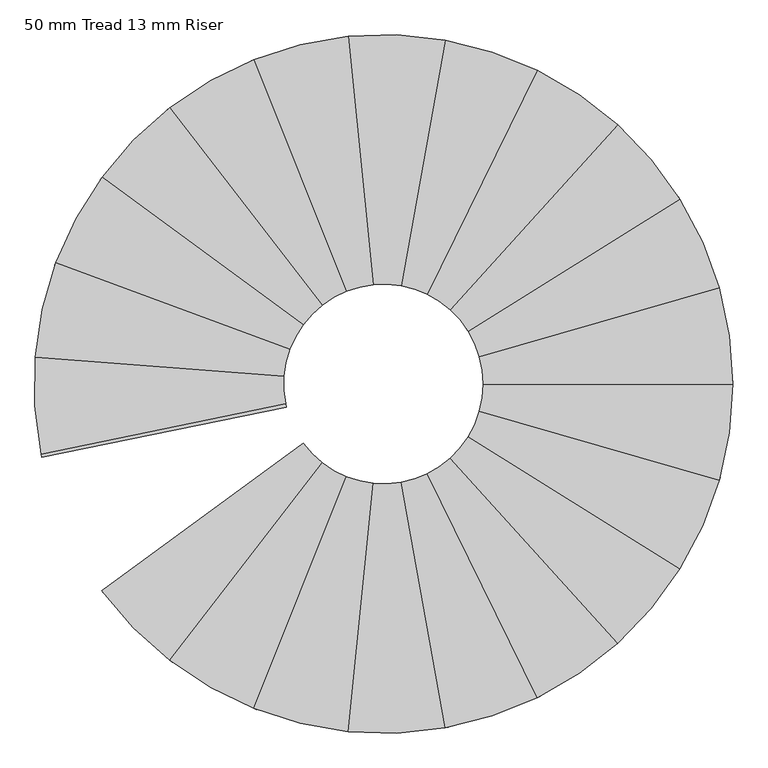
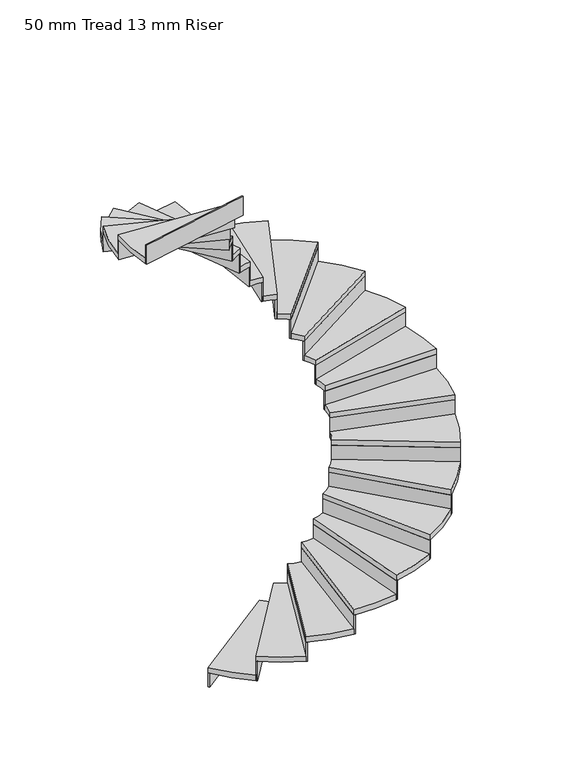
"""IFC4 building model written with IfcOpenShell, lengths in millimetres: stair flight geometry, 50 mm Tread 13 mm Riser."""

from ifc_helpers import new_model, si_unit, point, frame, frame_2d, origin, origin_with_axes, place, context, project, spatial, polyline, circle_curve, trimmed, segment, composite_curve, outline, extrude, source, transform, mapped, element, save


def stair_flight_50_mm_tread_13_mm_riser_f81ebb1b(model_context):
    return source(origin(), model_context, "Body", "SweptSolid", [
        extrude(outline(composite_curve([segment(trimmed(circle_curve(frame_2d((41081.7428342, 31893.725727)), 1400.0), [point((39960.6978939, 31055.1207891))], [point((39953.2550352, 31065.1635461))], False, "CARTESIAN"), True, "CONTINUOUS"), segment(polyline([(39953.2550352, 31065.1635461), (40759.3177488, 31656.9936753)]), True, "CONTINUOUS"), segment(trimmed(circle_curve(frame_2d((41081.7428342, 31893.725727)), 400.0), [point((40759.3177488, 31656.9936753))], [point((40766.873098, 31647.0335115))], True, "CARTESIAN"), True, "CONTINUOUS"), segment(polyline([(40766.873098, 31647.0335115), (39960.6978939, 31055.1207891)]), True, "CONTINUOUS")], self_intersect=False)), origin_with_axes(), (0.0, 0.0, 1.0), 131.8181818),
        extrude(outline(composite_curve([segment(polyline([(40836.8785542, 31577.4323752), (40224.7178542, 30786.6989958)]), True, "CONTINUOUS"), segment(trimmed(circle_curve(frame_2d((41081.7428342, 31893.725727)), 1400.0), [point((40224.7178542, 30786.6989958))], [point((39953.2550352, 31065.1635461))], False, "CARTESIAN"), True, "CONTINUOUS"), segment(polyline([(39953.2550352, 31065.1635461), (40759.3177488, 31656.9936753)]), True, "CONTINUOUS"), segment(trimmed(circle_curve(frame_2d((41081.7428342, 31893.725727)), 400.0), [point((40759.3177488, 31656.9936753))], [point((40836.8785542, 31577.4323752))], True, "CARTESIAN"), True, "CONTINUOUS")], self_intersect=False)), frame((0.0, 0.0, 131.8181818), z_axis=(0.0, 0.0, 1.0), x_axis=(1.0, 0.0, 0.0)), (0.0, 0.0, 1.0), 50.0),
        extrude(outline(composite_curve([segment(trimmed(circle_curve(frame_2d((41081.7428342, 31893.725727)), 1400.0), [point((40234.6361829, 30779.0911136))], [point((40224.7178542, 30786.6989958))], False, "CARTESIAN"), True, "CONTINUOUS"), segment(polyline([(40224.7178542, 30786.6989958), (40836.8785542, 31577.4323752)]), True, "CONTINUOUS"), segment(trimmed(circle_curve(frame_2d((41081.7428342, 31893.725727)), 400.0), [point((40836.8785542, 31577.4323752))], [point((40846.8823133, 31569.9348443))], True, "CARTESIAN"), True, "CONTINUOUS"), segment(polyline([(40846.8823133, 31569.9348443), (40234.6361829, 30779.0911136)]), True, "CONTINUOUS")], self_intersect=False)), frame((0.0, 0.0, 131.8181818), z_axis=(0.0, 0.0, 1.0), x_axis=(1.0, 0.0, 0.0)), (0.0, 0.0, 1.0), 181.8181818),
        extrude(outline(composite_curve([segment(polyline([(40933.3332084, 31522.2764263), (40562.3091439, 30593.6531747)]), True, "CONTINUOUS"), segment(trimmed(circle_curve(frame_2d((41081.7428342, 31893.725727)), 1400.0), [point((40562.3091439, 30593.6531747))], [point((40224.7178542, 30786.6989958))], False, "CARTESIAN"), True, "CONTINUOUS"), segment(polyline([(40224.7178542, 30786.6989958), (40836.8785542, 31577.4323752)]), True, "CONTINUOUS"), segment(trimmed(circle_curve(frame_2d((41081.7428342, 31893.725727)), 400.0), [point((40836.8785542, 31577.4323752))], [point((40933.3332084, 31522.2764263))], True, "CARTESIAN"), True, "CONTINUOUS")], self_intersect=False)), frame((0.0, 0.0, 313.6363636), z_axis=(0.0, 0.0, 1.0), x_axis=(1.0, 0.0, 0.0)), (0.0, 0.0, 1.0), 50.0),
        extrude(outline(composite_curve([segment(trimmed(circle_curve(frame_2d((41081.7428342, 31893.725727)), 1400.0), [point((40573.9376394, 30589.0671954))], [point((40562.3091439, 30593.6531747))], False, "CARTESIAN"), True, "CONTINUOUS"), segment(polyline([(40562.3091439, 30593.6531747), (40933.3332084, 31522.2764263)]), True, "CONTINUOUS"), segment(trimmed(circle_curve(frame_2d((41081.7428342, 31893.725727)), 400.0), [point((40933.3332084, 31522.2764263))], [point((40945.0134824, 31517.8200416))], True, "CARTESIAN"), True, "CONTINUOUS"), segment(polyline([(40945.0134824, 31517.8200416), (40573.9376394, 30589.0671954)]), True, "CONTINUOUS")], self_intersect=False)), frame((0.0, 0.0, 313.6363636), z_axis=(0.0, 0.0, 1.0), x_axis=(1.0, 0.0, 0.0)), (0.0, 0.0, 1.0), 181.8181818),
        extrude(outline(composite_curve([segment(polyline([(41041.2392226, 31495.7816889), (40939.9801936, 30500.9215937)]), True, "CONTINUOUS"), segment(trimmed(circle_curve(frame_2d((41081.7428342, 31893.725727)), 1400.0), [point((40939.9801936, 30500.9215937))], [point((40562.3091439, 30593.6531747))], False, "CARTESIAN"), True, "CONTINUOUS"), segment(polyline([(40562.3091439, 30593.6531747), (40933.3332084, 31522.2764263)]), True, "CONTINUOUS"), segment(trimmed(circle_curve(frame_2d((41081.7428342, 31893.725727)), 400.0), [point((40933.3332084, 31522.2764263))], [point((41041.2392226, 31495.7816889))], True, "CARTESIAN"), True, "CONTINUOUS")], self_intersect=False)), frame((0.0, 0.0, 495.4545455), z_axis=(0.0, 0.0, 1.0), x_axis=(1.0, 0.0, 0.0)), (0.0, 0.0, 1.0), 50.0),
        extrude(outline(composite_curve([segment(trimmed(circle_curve(frame_2d((41081.7428342, 31893.725727)), 1400.0), [point((40952.4215955, 30499.7113737))], [point((40939.9801936, 30500.9215937))], False, "CARTESIAN"), True, "CONTINUOUS"), segment(polyline([(40939.9801936, 30500.9215937), (41041.2392226, 31495.7816889)]), True, "CONTINUOUS"), segment(trimmed(circle_curve(frame_2d((41081.7428342, 31893.725727)), 400.0), [point((41041.2392226, 31495.7816889))], [point((41053.6947558, 31494.7103071))], True, "CARTESIAN"), True, "CONTINUOUS"), segment(polyline([(41053.6947558, 31494.7103071), (40952.4215955, 30499.7113737)]), True, "CONTINUOUS")], self_intersect=False)), frame((0.0, 0.0, 495.4545455), z_axis=(0.0, 0.0, 1.0), x_axis=(1.0, 0.0, 0.0)), (0.0, 0.0, 1.0), 181.8181818),
        extrude(outline(composite_curve([segment(polyline([(41152.2705155, 31499.99251), (41328.5897187, 30515.6594675)]), True, "CONTINUOUS"), segment(trimmed(circle_curve(frame_2d((41081.7428342, 31893.725727)), 1400.0), [point((41328.5897187, 30515.6594675))], [point((40939.9801936, 30500.9215937))], False, "CARTESIAN"), True, "CONTINUOUS"), segment(polyline([(40939.9801936, 30500.9215937), (41041.2392226, 31495.7816889)]), True, "CONTINUOUS"), segment(trimmed(circle_curve(frame_2d((41081.7428342, 31893.725727)), 400.0), [point((41041.2392226, 31495.7816889))], [point((41152.2705155, 31499.99251))], True, "CARTESIAN"), True, "CONTINUOUS")], self_intersect=False)), frame((0.0, 0.0, 677.2727273), z_axis=(0.0, 0.0, 1.0), x_axis=(1.0, 0.0, 0.0)), (0.0, 0.0, 1.0), 50.0),
        extrude(outline(composite_curve([segment(trimmed(circle_curve(frame_2d((41081.7428342, 31893.725727)), 1400.0), [point((41340.8840423, 30517.9183879))], [point((41328.5897187, 30515.6594675))], False, "CARTESIAN"), True, "CONTINUOUS"), segment(polyline([(41328.5897187, 30515.6594675), (41152.2705155, 31499.99251)]), True, "CONTINUOUS"), segment(trimmed(circle_curve(frame_2d((41081.7428342, 31893.725727)), 400.0), [point((41152.2705155, 31499.99251))], [point((41164.5402327, 31502.3887996))], True, "CARTESIAN"), True, "CONTINUOUS"), segment(polyline([(41164.5402327, 31502.3887996), (41340.8840423, 30517.9183879)]), True, "CONTINUOUS")], self_intersect=False)), frame((0.0, 0.0, 677.2727273), z_axis=(0.0, 0.0, 1.0), x_axis=(1.0, 0.0, 0.0)), (0.0, 0.0, 1.0), 181.8181818),
        extrude(outline(composite_curve([segment(polyline([(41257.8598576, 31534.5839806), (41698.1524162, 30636.7296144)]), True, "CONTINUOUS"), segment(trimmed(circle_curve(frame_2d((41081.7428342, 31893.725727)), 1400.0), [point((41698.1524162, 30636.7296144))], [point((41328.5897187, 30515.6594675))], False, "CARTESIAN"), True, "CONTINUOUS"), segment(polyline([(41328.5897187, 30515.6594675), (41152.2705155, 31499.99251)]), True, "CONTINUOUS"), segment(trimmed(circle_curve(frame_2d((41081.7428342, 31893.725727)), 400.0), [point((41152.2705155, 31499.99251))], [point((41257.8598576, 31534.5839806))], True, "CARTESIAN"), True, "CONTINUOUS")], self_intersect=False)), frame((0.0, 0.0, 859.0909091), z_axis=(0.0, 0.0, 1.0), x_axis=(1.0, 0.0, 0.0)), (0.0, 0.0, 1.0), 50.0),
        extrude(outline(composite_curve([segment(trimmed(circle_curve(frame_2d((41081.7428342, 31893.725727)), 1400.0), [point((41709.3510254, 30642.2833759))], [point((41698.1524162, 30636.7296144))], False, "CARTESIAN"), True, "CONTINUOUS"), segment(polyline([(41698.1524162, 30636.7296144), (41257.8598576, 31534.5839806)]), True, "CONTINUOUS"), segment(trimmed(circle_curve(frame_2d((41081.7428342, 31893.725727)), 400.0), [point((41257.8598576, 31534.5839806))], [point((41268.9970216, 31540.2630426))], True, "CARTESIAN"), True, "CONTINUOUS"), segment(polyline([(41268.9970216, 31540.2630426), (41709.3510254, 30642.2833759)]), True, "CONTINUOUS")], self_intersect=False)), frame((0.0, 0.0, 859.0909091), z_axis=(0.0, 0.0, 1.0), x_axis=(1.0, 0.0, 0.0)), (0.0, 0.0, 1.0), 181.8181818),
        extrude(outline(composite_curve([segment(polyline([(41349.8599233, 31596.8870056), (42020.1526461, 30854.7902021)]), True, "CONTINUOUS"), segment(trimmed(circle_curve(frame_2d((41081.7428342, 31893.725727)), 1400.0), [point((42020.1526461, 30854.7902021))], [point((41698.1524162, 30636.7296144))], False, "CARTESIAN"), True, "CONTINUOUS"), segment(polyline([(41698.1524162, 30636.7296144), (41257.8598576, 31534.5839806)]), True, "CONTINUOUS"), segment(trimmed(circle_curve(frame_2d((41081.7428342, 31893.725727)), 400.0), [point((41257.8598576, 31534.5839806))], [point((41349.8599233, 31596.8870056))], True, "CARTESIAN"), True, "CONTINUOUS")], self_intersect=False)), frame((0.0, 0.0, 1040.9090909), z_axis=(0.0, 0.0, 1.0), x_axis=(1.0, 0.0, 0.0)), (0.0, 0.0, 1.0), 50.0),
        extrude(outline(composite_curve([segment(trimmed(circle_curve(frame_2d((41081.7428342, 31893.725727)), 1400.0), [point((42029.3914506, 30863.2102736))], [point((42020.1526461, 30854.7902021))], False, "CARTESIAN"), True, "CONTINUOUS"), segment(polyline([(42020.1526461, 30854.7902021), (41349.8599233, 31596.8870056)]), True, "CONTINUOUS"), segment(trimmed(circle_curve(frame_2d((41081.7428342, 31893.725727)), 400.0), [point((41349.8599233, 31596.8870056))], [point((41359.0051848, 31605.4106408))], True, "CARTESIAN"), True, "CONTINUOUS"), segment(polyline([(41359.0051848, 31605.4106408), (42029.3914506, 30863.2102736)]), True, "CONTINUOUS")], self_intersect=False)), frame((0.0, 0.0, 1040.9090909), z_axis=(0.0, 0.0, 1.0), x_axis=(1.0, 0.0, 0.0)), (0.0, 0.0, 1.0), 181.8181818),
        extrude(outline(composite_curve([segment(polyline([(41421.171942, 31682.094253), (42269.7447114, 31153.0155679)]), True, "CONTINUOUS"), segment(trimmed(circle_curve(frame_2d((41081.7428342, 31893.725727)), 1400.0), [point((42269.7447114, 31153.0155679))], [point((42020.1526461, 30854.7902021))], False, "CARTESIAN"), True, "CONTINUOUS"), segment(polyline([(42020.1526461, 30854.7902021), (41349.8599233, 31596.8870056)]), True, "CONTINUOUS"), segment(trimmed(circle_curve(frame_2d((41081.7428342, 31893.725727)), 400.0), [point((41349.8599233, 31596.8870056))], [point((41421.171942, 31682.094253))], True, "CARTESIAN"), True, "CONTINUOUS")], self_intersect=False)), frame((0.0, 0.0, 1222.7272727), z_axis=(0.0, 0.0, 1.0), x_axis=(1.0, 0.0, 0.0)), (0.0, 0.0, 1.0), 50.0),
        extrude(outline(composite_curve([segment(trimmed(circle_curve(frame_2d((41081.7428342, 31893.725727)), 1400.0), [point((42276.3108406, 31163.6522526))], [point((42269.7447114, 31153.0155679))], False, "CARTESIAN"), True, "CONTINUOUS"), segment(polyline([(42269.7447114, 31153.0155679), (41421.171942, 31682.094253)]), True, "CONTINUOUS"), segment(trimmed(circle_curve(frame_2d((41081.7428342, 31893.725727)), 400.0), [point((41421.171942, 31682.094253))], [point((41427.6196482, 31692.8047735))], True, "CARTESIAN"), True, "CONTINUOUS"), segment(polyline([(41427.6196482, 31692.8047735), (42276.3108406, 31163.6522526)]), True, "CONTINUOUS")], self_intersect=False)), frame((0.0, 0.0, 1222.7272727), z_axis=(0.0, 0.0, 1.0), x_axis=(1.0, 0.0, 0.0)), (0.0, 0.0, 1.0), 181.8181818),
        extrude(outline(composite_curve([segment(polyline([(41466.293443, 31783.6310894), (42427.6699652, 31508.3944954)]), True, "CONTINUOUS"), segment(trimmed(circle_curve(frame_2d((41081.7428342, 31893.725727)), 1400.0), [point((42427.6699652, 31508.3944954))], [point((42269.7447114, 31153.0155679))], False, "CARTESIAN"), True, "CONTINUOUS"), segment(polyline([(42269.7447114, 31153.0155679), (41421.171942, 31682.094253)]), True, "CONTINUOUS"), segment(trimmed(circle_curve(frame_2d((41081.7428342, 31893.725727)), 400.0), [point((41421.171942, 31682.094253))], [point((41466.293443, 31783.6310894))], True, "CARTESIAN"), True, "CONTINUOUS")], self_intersect=False)), frame((0.0, 0.0, 1404.5454545), z_axis=(0.0, 0.0, 1.0), x_axis=(1.0, 0.0, 0.0)), (0.0, 0.0, 1.0), 50.0),
        extrude(outline(composite_curve([segment(trimmed(circle_curve(frame_2d((41081.7428342, 31893.725727)), 1400.0), [point((42431.0567733, 31520.4270615))], [point((42427.6699652, 31508.3944954))], False, "CARTESIAN"), True, "CONTINUOUS"), segment(polyline([(42427.6699652, 31508.3944954), (41466.293443, 31783.6310894)]), True, "CONTINUOUS"), segment(trimmed(circle_curve(frame_2d((41081.7428342, 31893.725727)), 400.0), [point((41466.293443, 31783.6310894))], [point((41469.5460857, 31795.7020662))], True, "CARTESIAN"), True, "CONTINUOUS"), segment(polyline([(41469.5460857, 31795.7020662), (42431.0567733, 31520.4270615)]), True, "CONTINUOUS")], self_intersect=False)), frame((0.0, 0.0, 1404.5454545), z_axis=(0.0, 0.0, 1.0), x_axis=(1.0, 0.0, 0.0)), (0.0, 0.0, 1.0), 181.8181818),
        extrude(outline(composite_curve([segment(polyline([(41481.7428292, 31893.6628825), (42481.7428169, 31893.5057711)]), True, "CONTINUOUS"), segment(trimmed(circle_curve(frame_2d((41081.7428342, 31893.725727)), 1400.0), [point((42481.7428169, 31893.5057711))], [point((42427.6699652, 31508.3944954))], False, "CARTESIAN"), True, "CONTINUOUS"), segment(polyline([(42427.6699652, 31508.3944954), (41466.293443, 31783.6310894)]), True, "CONTINUOUS"), segment(trimmed(circle_curve(frame_2d((41081.7428342, 31893.725727)), 400.0), [point((41466.293443, 31783.6310894))], [point((41481.7428292, 31893.6628825))], True, "CARTESIAN"), True, "CONTINUOUS")], self_intersect=False)), frame((0.0, 0.0, 1586.3636364), z_axis=(0.0, 0.0, 1.0), x_axis=(1.0, 0.0, 0.0)), (0.0, 0.0, 1.0), 50.0),
        extrude(outline(composite_curve([segment(trimmed(circle_curve(frame_2d((41081.7428342, 31893.725727)), 1400.0), [point((42481.6889761, 31906.0057797))], [point((42481.7428169, 31893.5057711))], False, "CARTESIAN"), True, "CONTINUOUS"), segment(polyline([(42481.7428169, 31893.5057711), (41481.7428292, 31893.6628825)]), True, "CONTINUOUS"), segment(trimmed(circle_curve(frame_2d((41081.7428342, 31893.725727)), 400.0), [point((41481.7428292, 31893.6628825))], [point((41481.5494329, 31906.162913))], True, "CARTESIAN"), True, "CONTINUOUS"), segment(polyline([(41481.5494329, 31906.162913), (42481.6889761, 31906.0057797)]), True, "CONTINUOUS")], self_intersect=False)), frame((0.0, 0.0, 1586.3636364), z_axis=(0.0, 0.0, 1.0), x_axis=(1.0, 0.0, 0.0)), (0.0, 0.0, 1.0), 181.8181818),
        extrude(outline(composite_curve([segment(polyline([(41466.3280183, 32003.6995246), (42427.7909786, 32278.6340186)]), True, "CONTINUOUS"), segment(trimmed(circle_curve(frame_2d((41081.7428342, 31893.725727)), 1400.0), [point((42427.7909786, 32278.6340186))], [point((42481.7428169, 31893.5057711))], False, "CARTESIAN"), True, "CONTINUOUS"), segment(polyline([(42481.7428169, 31893.5057711), (41481.7428292, 31893.6628825)]), True, "CONTINUOUS"), segment(trimmed(circle_curve(frame_2d((41081.7428342, 31893.725727)), 400.0), [point((41481.7428292, 31893.6628825))], [point((41466.3280183, 32003.6995246))], True, "CARTESIAN"), True, "CONTINUOUS")], self_intersect=False)), frame((0.0, 0.0, 1768.1818182), z_axis=(0.0, 0.0, 1.0), x_axis=(1.0, 0.0, 0.0)), (0.0, 0.0, 1.0), 50.0),
        extrude(outline(composite_curve([segment(trimmed(circle_curve(frame_2d((41081.7428342, 31893.725727)), 1400.0), [point((42424.3006433, 32290.636963))], [point((42427.7909786, 32278.6340186))], False, "CARTESIAN"), True, "CONTINUOUS"), segment(polyline([(42427.7909786, 32278.6340186), (41466.3280183, 32003.6995246)]), True, "CONTINUOUS"), segment(trimmed(circle_curve(frame_2d((41081.7428342, 31893.725727)), 400.0), [point((41466.3280183, 32003.6995246))], [point((41462.7035055, 32015.6641004))], True, "CARTESIAN"), True, "CONTINUOUS"), segment(polyline([(41462.7035055, 32015.6641004), (42424.3006433, 32290.636963)]), True, "CONTINUOUS")], self_intersect=False)), frame((0.0, 0.0, 1768.1818182), z_axis=(0.0, 0.0, 1.0), x_axis=(1.0, 0.0, 0.0)), (0.0, 0.0, 1.0), 181.8181818),
        extrude(outline(composite_curve([segment(polyline([(41421.2384246, 32105.2505342), (42269.9774008, 32634.0625523)]), True, "CONTINUOUS"), segment(trimmed(circle_curve(frame_2d((41081.7428342, 31893.725727)), 1400.0), [point((42269.9774008, 32634.0625523))], [point((42427.7909786, 32278.6340186))], False, "CARTESIAN"), True, "CONTINUOUS"), segment(polyline([(42427.7909786, 32278.6340186), (41466.3280183, 32003.6995246)]), True, "CONTINUOUS"), segment(trimmed(circle_curve(frame_2d((41081.7428342, 31893.725727)), 400.0), [point((41466.3280183, 32003.6995246))], [point((41421.2384246, 32105.2505342))], True, "CARTESIAN"), True, "CONTINUOUS")], self_intersect=False)), frame((0.0, 0.0, 1950.0), z_axis=(0.0, 0.0, 1.0), x_axis=(1.0, 0.0, 0.0)), (0.0, 0.0, 1.0), 50.0),
        extrude(outline(composite_curve([segment(trimmed(circle_curve(frame_2d((41081.7428342, 31893.725727)), 1400.0), [point((42263.3198869, 32644.6422793))], [point((42269.9774008, 32634.0625523))], False, "CARTESIAN"), True, "CONTINUOUS"), segment(polyline([(42269.9774008, 32634.0625523), (41421.2384246, 32105.2505342)]), True, "CONTINUOUS"), segment(trimmed(circle_curve(frame_2d((41081.7428342, 31893.725727)), 400.0), [point((41421.2384246, 32105.2505342))], [point((41414.4624646, 32115.7564626))], True, "CARTESIAN"), True, "CONTINUOUS"), segment(polyline([(41414.4624646, 32115.7564626), (42263.3198869, 32644.6422793)]), True, "CONTINUOUS")], self_intersect=False)), frame((0.0, 0.0, 1950.0), z_axis=(0.0, 0.0, 1.0), x_axis=(1.0, 0.0, 0.0)), (0.0, 0.0, 1.0), 181.8181818),
        extrude(outline(composite_curve([segment(polyline([(41349.9531835, 32190.4801853), (42020.479057, 32932.3663309)]), True, "CONTINUOUS"), segment(trimmed(circle_curve(frame_2d((41081.7428342, 31893.725727)), 1400.0), [point((42020.479057, 32932.3663309))], [point((42269.9774008, 32634.0625523))], False, "CARTESIAN"), True, "CONTINUOUS"), segment(polyline([(42269.9774008, 32634.0625523), (41421.2384246, 32105.2505342)]), True, "CONTINUOUS"), segment(trimmed(circle_curve(frame_2d((41081.7428342, 31893.725727)), 400.0), [point((41421.2384246, 32105.2505342))], [point((41349.9531835, 32190.4801853))], True, "CARTESIAN"), True, "CONTINUOUS")], self_intersect=False)), frame((0.0, 0.0, 2131.8181818), z_axis=(0.0, 0.0, 1.0), x_axis=(1.0, 0.0, 0.0)), (0.0, 0.0, 1.0), 50.0),
        extrude(outline(composite_curve([segment(trimmed(circle_curve(frame_2d((41081.7428342, 31893.725727)), 1400.0), [point((42011.1680617, 32940.7065036))], [point((42020.479057, 32932.3663309))], False, "CARTESIAN"), True, "CONTINUOUS"), segment(polyline([(42020.479057, 32932.3663309), (41349.9531835, 32190.4801853)]), True, "CONTINUOUS"), segment(trimmed(circle_curve(frame_2d((41081.7428342, 31893.725727)), 400.0), [point((41349.9531835, 32190.4801853))], [point((41340.5486127, 32198.7168237))], True, "CARTESIAN"), True, "CONTINUOUS"), segment(polyline([(41340.5486127, 32198.7168237), (42011.1680617, 32940.7065036)]), True, "CONTINUOUS")], self_intersect=False)), frame((0.0, 0.0, 2131.8181818), z_axis=(0.0, 0.0, 1.0), x_axis=(1.0, 0.0, 0.0)), (0.0, 0.0, 1.0), 181.8181818),
        extrude(outline(composite_curve([segment(polyline([(41257.9726995, 32252.8121158), (41698.5473627, 33150.5280876)]), True, "CONTINUOUS"), segment(trimmed(circle_curve(frame_2d((41081.7428342, 31893.725727)), 1400.0), [point((41698.5473627, 33150.5280876))], [point((42020.479057, 32932.3663309))], False, "CARTESIAN"), True, "CONTINUOUS"), segment(polyline([(42020.479057, 32932.3663309), (41349.9531835, 32190.4801853)]), True, "CONTINUOUS"), segment(trimmed(circle_curve(frame_2d((41081.7428342, 31893.725727)), 400.0), [point((41349.9531835, 32190.4801853))], [point((41257.9726995, 32252.8121158))], True, "CARTESIAN"), True, "CONTINUOUS")], self_intersect=False)), frame((0.0, 0.0, 2313.6363636), z_axis=(0.0, 0.0, 1.0), x_axis=(1.0, 0.0, 0.0)), (0.0, 0.0, 1.0), 50.0),
        extrude(outline(composite_curve([segment(trimmed(circle_curve(frame_2d((41081.7428342, 31893.725727)), 1400.0), [point((41687.3013269, 33155.9851742))], [point((41698.5473627, 33150.5280876))], False, "CARTESIAN"), True, "CONTINUOUS"), segment(polyline([(41698.5473627, 33150.5280876), (41257.9726995, 32252.8121158)]), True, "CONTINUOUS"), segment(trimmed(circle_curve(frame_2d((41081.7428342, 31893.725727)), 400.0), [point((41257.9726995, 32252.8121158))], [point((41246.6651791, 32258.1439211))], True, "CARTESIAN"), True, "CONTINUOUS"), segment(polyline([(41246.6651791, 32258.1439211), (41687.3013269, 33155.9851742)]), True, "CONTINUOUS")], self_intersect=False)), frame((0.0, 0.0, 2313.6363636), z_axis=(0.0, 0.0, 1.0), x_axis=(1.0, 0.0, 0.0)), (0.0, 0.0, 1.0), 181.8181818),
        extrude(outline(composite_curve([segment(polyline([(41152.3942319, 32287.4367632), (41329.0227263, 33271.7143536)]), True, "CONTINUOUS"), segment(trimmed(circle_curve(frame_2d((41081.7428342, 31893.725727)), 1400.0), [point((41329.0227263, 33271.7143536))], [point((41698.5473627, 33150.5280876))], False, "CARTESIAN"), True, "CONTINUOUS"), segment(polyline([(41698.5473627, 33150.5280876), (41257.9726995, 32252.8121158)]), True, "CONTINUOUS"), segment(trimmed(circle_curve(frame_2d((41081.7428342, 31893.725727)), 400.0), [point((41257.9726995, 32252.8121158))], [point((41152.3942319, 32287.4367632))], True, "CARTESIAN"), True, "CONTINUOUS")], self_intersect=False)), frame((0.0, 0.0, 2495.4545455), z_axis=(0.0, 0.0, 1.0), x_axis=(1.0, 0.0, 0.0)), (0.0, 0.0, 1.0), 50.0),
        extrude(outline(composite_curve([segment(trimmed(circle_curve(frame_2d((41081.7428342, 31893.725727)), 1400.0), [point((41316.7093998, 33273.8672825))], [point((41329.0227263, 33271.7143536))], False, "CARTESIAN"), True, "CONTINUOUS"), segment(polyline([(41329.0227263, 33271.7143536), (41152.3942319, 32287.4367632)]), True, "CONTINUOUS"), segment(trimmed(circle_curve(frame_2d((41081.7428342, 31893.725727)), 400.0), [point((41152.3942319, 32287.4367632))], [point((41140.0562559, 32289.4523307))], True, "CARTESIAN"), True, "CONTINUOUS"), segment(polyline([(41140.0562559, 32289.4523307), (41316.7093998, 33273.8672825)]), True, "CONTINUOUS")], self_intersect=False)), frame((0.0, 0.0, 2495.4545455), z_axis=(0.0, 0.0, 1.0), x_axis=(1.0, 0.0, 0.0)), (0.0, 0.0, 1.0), 181.8181818),
        extrude(outline(composite_curve([segment(polyline([(41041.3642677, 32291.6824726), (40940.4178514, 33286.5743366)]), True, "CONTINUOUS"), segment(trimmed(circle_curve(frame_2d((41081.7428342, 31893.725727)), 1400.0), [point((40940.4178514, 33286.5743366))], [point((41329.0227263, 33271.7143536))], False, "CARTESIAN"), True, "CONTINUOUS"), segment(polyline([(41329.0227263, 33271.7143536), (41152.3942319, 32287.4367632)]), True, "CONTINUOUS"), segment(trimmed(circle_curve(frame_2d((41081.7428342, 31893.725727)), 400.0), [point((41152.3942319, 32287.4367632))], [point((41041.3642677, 32291.6824726))], True, "CARTESIAN"), True, "CONTINUOUS")], self_intersect=False)), frame((0.0, 0.0, 2677.2727273), z_axis=(0.0, 0.0, 1.0), x_axis=(1.0, 0.0, 0.0)), (0.0, 0.0, 1.0), 50.0),
        extrude(outline(composite_curve([segment(trimmed(circle_curve(frame_2d((41081.7428342, 31893.725727)), 1400.0), [point((40927.9873364, 33285.2569868))], [point((40940.4178514, 33286.5743366))], False, "CARTESIAN"), True, "CONTINUOUS"), segment(polyline([(40940.4178514, 33286.5743366), (41041.3642677, 32291.6824726)]), True, "CONTINUOUS"), segment(trimmed(circle_curve(frame_2d((41081.7428342, 31893.725727)), 400.0), [point((41041.3642677, 32291.6824726))], [point((41028.9478403, 32290.2262801))], True, "CARTESIAN"), True, "CONTINUOUS"), segment(polyline([(41028.9478403, 32290.2262801), (40927.9873364, 33285.2569868)]), True, "CONTINUOUS")], self_intersect=False)), frame((0.0, 0.0, 2677.2727273), z_axis=(0.0, 0.0, 1.0), x_axis=(1.0, 0.0, 0.0)), (0.0, 0.0, 1.0), 181.8181818),
        extrude(outline(composite_curve([segment(polyline([(40933.4499336, 32265.221643), (40562.717682, 33193.9614331)]), True, "CONTINUOUS"), segment(trimmed(circle_curve(frame_2d((41081.7428342, 31893.725727)), 1400.0), [point((40562.717682, 33193.9614331))], [point((40940.4178514, 33286.5743366))], False, "CARTESIAN"), True, "CONTINUOUS"), segment(polyline([(40940.4178514, 33286.5743366), (41041.3642677, 32291.6824726)]), True, "CONTINUOUS"), segment(trimmed(circle_curve(frame_2d((41081.7428342, 31893.725727)), 400.0), [point((41041.3642677, 32291.6824726))], [point((40933.4499336, 32265.221643))], True, "CARTESIAN"), True, "CONTINUOUS")], self_intersect=False)), frame((0.0, 0.0, 2859.0909091), z_axis=(0.0, 0.0, 1.0), x_axis=(1.0, 0.0, 0.0)), (0.0, 0.0, 1.0), 50.0),
        extrude(outline(composite_curve([segment(trimmed(circle_curve(frame_2d((41081.7428342, 31893.725727)), 1400.0), [point((40551.1291232, 33189.2754519))], [point((40562.717682, 33193.9614331))], False, "CARTESIAN"), True, "CONTINUOUS"), segment(polyline([(40562.717682, 33193.9614331), (40933.4499336, 32265.221643)]), True, "CONTINUOUS"), segment(trimmed(circle_curve(frame_2d((41081.7428342, 31893.725727)), 400.0), [point((40933.4499336, 32265.221643))], [point((40921.9131125, 32260.4060511))], True, "CARTESIAN"), True, "CONTINUOUS"), segment(polyline([(40921.9131125, 32260.4060511), (40551.1291232, 33189.2754519)]), True, "CONTINUOUS")], self_intersect=False)), frame((0.0, 0.0, 2859.0909091), z_axis=(0.0, 0.0, 1.0), x_axis=(1.0, 0.0, 0.0)), (0.0, 0.0, 1.0), 181.8181818),
        extrude(outline(composite_curve([segment(polyline([(40836.9779529, 32210.0960051), (40225.0657496, 33001.0217004)]), True, "CONTINUOUS"), segment(trimmed(circle_curve(frame_2d((41081.7428342, 31893.725727)), 1400.0), [point((40225.0657496, 33001.0217004))], [point((40562.717682, 33193.9614331))], False, "CARTESIAN"), True, "CONTINUOUS"), segment(polyline([(40562.717682, 33193.9614331), (40933.4499336, 32265.221643)]), True, "CONTINUOUS"), segment(trimmed(circle_curve(frame_2d((41081.7428342, 31893.725727)), 400.0), [point((40933.4499336, 32265.221643))], [point((40836.9779529, 32210.0960051))], True, "CARTESIAN"), True, "CONTINUOUS")], self_intersect=False)), frame((0.0, 0.0, 3040.9090909), z_axis=(0.0, 0.0, 1.0), x_axis=(1.0, 0.0, 0.0)), (0.0, 0.0, 1.0), 50.0),
        extrude(outline(composite_curve([segment(trimmed(circle_curve(frame_2d((41081.7428342, 31893.725727)), 1400.0), [point((40215.213326, 32993.3286605))], [point((40225.0657496, 33001.0217004))], False, "CARTESIAN"), True, "CONTINUOUS"), segment(polyline([(40225.0657496, 33001.0217004), (40836.9779529, 32210.0960051)]), True, "CONTINUOUS"), segment(trimmed(circle_curve(frame_2d((41081.7428342, 31893.725727)), 400.0), [point((40836.9779529, 32210.0960051))], [point((40827.210925, 32202.2925872))], True, "CARTESIAN"), True, "CONTINUOUS"), segment(polyline([(40827.210925, 32202.2925872), (40215.213326, 32993.3286605)]), True, "CONTINUOUS")], self_intersect=False)), frame((0.0, 0.0, 3040.9090909), z_axis=(0.0, 0.0, 1.0), x_axis=(1.0, 0.0, 0.0)), (0.0, 0.0, 1.0), 181.8181818),
        extrude(outline(composite_curve([segment(polyline([(40759.3921513, 32130.5590803), (39953.5154441, 32722.6424636)]), True, "CONTINUOUS"), segment(trimmed(circle_curve(frame_2d((41081.7428342, 31893.725727)), 1400.0), [point((39953.5154441, 32722.6424636))], [point((40225.0657496, 33001.0217004))], False, "CARTESIAN"), True, "CONTINUOUS"), segment(polyline([(40225.0657496, 33001.0217004), (40836.9779529, 32210.0960051)]), True, "CONTINUOUS"), segment(trimmed(circle_curve(frame_2d((41081.7428342, 31893.725727)), 400.0), [point((40836.9779529, 32210.0960051))], [point((40759.3921513, 32130.5590803))], True, "CARTESIAN"), True, "CONTINUOUS")], self_intersect=False)), frame((0.0, 0.0, 3222.7272727), z_axis=(0.0, 0.0, 1.0), x_axis=(1.0, 0.0, 0.0)), (0.0, 0.0, 1.0), 50.0),
        extrude(outline(composite_curve([segment(trimmed(circle_curve(frame_2d((41081.7428342, 31893.725727)), 1400.0), [point((39946.1593735, 32712.5359638))], [point((39953.5154441, 32722.6424636))], False, "CARTESIAN"), True, "CONTINUOUS"), segment(polyline([(39953.5154441, 32722.6424636), (40759.3921513, 32130.5590803)]), True, "CONTINUOUS"), segment(trimmed(circle_curve(frame_2d((41081.7428342, 31893.725727)), 400.0), [point((40759.3921513, 32130.5590803))], [point((40752.1485452, 32120.369952))], True, "CARTESIAN"), True, "CONTINUOUS"), segment(polyline([(40752.1485452, 32120.369952), (39946.1593735, 32712.5359638)]), True, "CONTINUOUS")], self_intersect=False)), frame((0.0, 0.0, 3222.7272727), z_axis=(0.0, 0.0, 1.0), x_axis=(1.0, 0.0, 0.0)), (0.0, 0.0, 1.0), 181.8181818),
        extrude(outline(composite_curve([segment(polyline([(40706.6790876, 32032.747977), (39769.0197211, 32380.3036021)]), True, "CONTINUOUS"), segment(trimmed(circle_curve(frame_2d((41081.7428342, 31893.725727)), 1400.0), [point((39769.0197211, 32380.3036021))], [point((39953.5154441, 32722.6424636))], False, "CARTESIAN"), True, "CONTINUOUS"), segment(polyline([(39953.5154441, 32722.6424636), (40759.3921513, 32130.5590803)]), True, "CONTINUOUS"), segment(trimmed(circle_curve(frame_2d((41081.7428342, 31893.725727)), 400.0), [point((40759.3921513, 32130.5590803))], [point((40706.6790876, 32032.747977))], True, "CARTESIAN"), True, "CONTINUOUS")], self_intersect=False)), frame((0.0, 0.0, 3404.5454545), z_axis=(0.0, 0.0, 1.0), x_axis=(1.0, 0.0, 0.0)), (0.0, 0.0, 1.0), 50.0),
        extrude(outline(composite_curve([segment(trimmed(circle_curve(frame_2d((41081.7428342, 31893.725727)), 1400.0), [point((39764.7276016, 32368.5634648))], [point((39769.0197211, 32380.3036021))], False, "CARTESIAN"), True, "CONTINUOUS"), segment(polyline([(39769.0197211, 32380.3036021), (40706.6790876, 32032.747977)]), True, "CONTINUOUS"), segment(trimmed(circle_curve(frame_2d((41081.7428342, 31893.725727)), 400.0), [point((40706.6790876, 32032.747977))], [point((40702.5178236, 32020.9593364))], True, "CARTESIAN"), True, "CONTINUOUS"), segment(polyline([(40702.5178236, 32020.9593364), (39764.7276016, 32368.5634648)]), True, "CONTINUOUS")], self_intersect=False)), frame((0.0, 0.0, 3404.5454545), z_axis=(0.0, 0.0, 1.0), x_axis=(1.0, 0.0, 0.0)), (0.0, 0.0, 1.0), 181.8181818),
        extrude(outline(composite_curve([segment(polyline([(40682.9061278, 31924.2098483), (39685.8143619, 32000.4201514)]), True, "CONTINUOUS"), segment(trimmed(circle_curve(frame_2d((41081.7428342, 31893.725727)), 1400.0), [point((39685.8143619, 32000.4201514))], [point((39769.0197211, 32380.3036021))], False, "CARTESIAN"), True, "CONTINUOUS"), segment(polyline([(39769.0197211, 32380.3036021), (40706.6790876, 32032.747977)]), True, "CONTINUOUS"), segment(trimmed(circle_curve(frame_2d((41081.7428342, 31893.725727)), 400.0), [point((40706.6790876, 32032.747977))], [point((40682.9061278, 31924.2098483))], True, "CARTESIAN"), True, "CONTINUOUS")], self_intersect=False)), frame((0.0, 0.0, 3586.3636364), z_axis=(0.0, 0.0, 1.0), x_axis=(1.0, 0.0, 0.0)), (0.0, 0.0, 1.0), 50.0),
        extrude(outline(composite_curve([segment(trimmed(circle_curve(frame_2d((41081.7428342, 31893.725727)), 1400.0), [point((39684.9173755, 31987.9522515))], [point((39685.8143619, 32000.4201514))], False, "CARTESIAN"), True, "CONTINUOUS"), segment(polyline([(39685.8143619, 32000.4201514), (40682.9061278, 31924.2098483)]), True, "CONTINUOUS"), segment(trimmed(circle_curve(frame_2d((41081.7428342, 31893.725727)), 400.0), [point((40682.9061278, 31924.2098483))], [point((40682.1482911, 31911.7313127))], True, "CARTESIAN"), True, "CONTINUOUS"), segment(polyline([(40682.1482911, 31911.7313127), (39684.9173755, 31987.9522515)]), True, "CONTINUOUS")], self_intersect=False)), frame((0.0, 0.0, 3586.3636364), z_axis=(0.0, 0.0, 1.0), x_axis=(1.0, 0.0, 0.0)), (0.0, 0.0, 1.0), 181.8181818),
        extrude(outline(composite_curve([segment(trimmed(circle_curve(frame_2d((41081.7428342, 31893.725727)), 1400.0), [point((39712.8868915, 31600.070473))], [point((39710.3195329, 31612.3041063))], False, "CARTESIAN"), True, "CONTINUOUS"), segment(polyline([(39710.3195329, 31612.3041063), (40689.9076052, 31813.3195497)]), True, "CONTINUOUS"), segment(trimmed(circle_curve(frame_2d((41081.7428342, 31893.725727)), 400.0), [point((40689.9076052, 31813.3195497))], [point((40692.6116708, 31801.1139692))], True, "CARTESIAN"), True, "CONTINUOUS"), segment(polyline([(40692.6116708, 31801.1139692), (39712.8868915, 31600.070473)]), True, "CONTINUOUS")], self_intersect=False)), frame((0.0, 0.0, 3768.1818182), z_axis=(0.0, 0.0, 1.0), x_axis=(1.0, 0.0, 0.0)), (0.0, 0.0, 1.0), 181.8181818),
        extrude(outline(composite_curve([segment(polyline([(40689.9076052, 31813.3195497), (39710.3195329, 31612.3041063)]), True, "CONTINUOUS"), segment(trimmed(circle_curve(frame_2d((41081.7428342, 31893.725727)), 1400.0), [point((39710.3195329, 31612.3041063))], [point((39685.8143619, 32000.4201514))], False, "CARTESIAN"), True, "CONTINUOUS"), segment(polyline([(39685.8143619, 32000.4201514), (40682.9061278, 31924.2098483)]), True, "CONTINUOUS"), segment(trimmed(circle_curve(frame_2d((41081.7428342, 31893.725727)), 400.0), [point((40682.9061278, 31924.2098483))], [point((40689.9076052, 31813.3195497))], True, "CARTESIAN"), True, "CONTINUOUS")], self_intersect=False)), frame((0.0, 0.0, 3768.1818182), z_axis=(0.0, 0.0, 1.0), x_axis=(1.0, 0.0, 0.0)), (0.0, 0.0, 1.0), 50.0),
    ])


if __name__ == "__main__":
    model = new_model("IFC4")
    model_context = context("Model", 3, world=origin())
    ifc_project = project(units=[si_unit("LENGTHUNIT", "METRE", prefix="MILLI")], contexts=[model_context])
    site = spatial("IfcSite", under=ifc_project)
    building = spatial("IfcBuilding", under=site)
    placement = place(None, origin())
    stair_flight_50_mm_tread_13_mm_riser_shape = stair_flight_50_mm_tread_13_mm_riser_f81ebb1b(model_context)
    element("IfcStairFlight", 1, ObjectType="50 mm Tread 13 mm Riser", at=placement, inside=building, context=model_context, shape_type="MappedRepresentation", body=[
        mapped(stair_flight_50_mm_tread_13_mm_riser_shape, transform((0.0, 0.0, 0.0), x_axis=(1.0, 0.0, 0.0), y_axis=(0.0, 1.0, 0.0), z_axis=(0.0, 0.0, 1.0))),
    ])
    save(model, "model.ifc")
